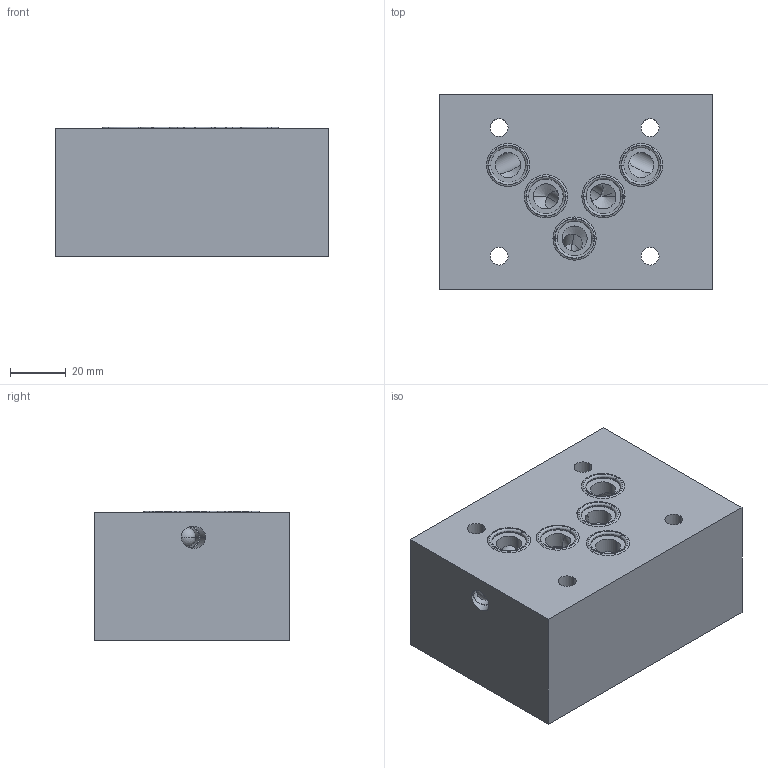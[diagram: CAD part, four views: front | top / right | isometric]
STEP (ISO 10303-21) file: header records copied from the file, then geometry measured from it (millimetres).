
FILE_DESCRIPTION((''),'2;1');
FILE_NAME('41146600_ASM','2018-10-12T',('l.soukupova'),(''),'PRO/ENGINEER BY PARAMETRIC TECHNOLOGY CORPORATION, 2015440','PRO/ENGINEER BY PARAMETRIC TECHNOLOGY CORPORATION, 2015440','');
FILE_SCHEMA(('AUTOMOTIVE_DESIGN { 1 0 10303 214 1 1 1 1 }'));
Length unit declared in the file: millimetre
Products named in the file (4): 412015; MB850_080E; 12_42X1_68_V90_201623; 41146600_ASM
Assembly tree (8 placements, depth 2):
  41146600_ASM
    412015
    MB850_080E  x2
    12_42X1_68_V90_201623  x5
Bounding box: 98 x 70 x 46.28 mm (x, y, z)
Volume: 294375.4 mm3; surface area: 43125.2 mm2
Topology: 8 solids, 12 shells, 261 faces, 669 edges, 513 vertices
Faces by surface type: cylinder 106, cone 78, torus 40, plane 33, sphere 4
Entity records: 9573 total; most frequent: CARTESIAN_POINT 2492, DIRECTION 979, ORIENTED_EDGE 794, PRESENTATION_STYLE_ASSIGNMENT 624, STYLED_ITEM 622, CURVE_STYLE 478, EDGE_CURVE 405, AXIS2_PLACEMENT_3D 391
